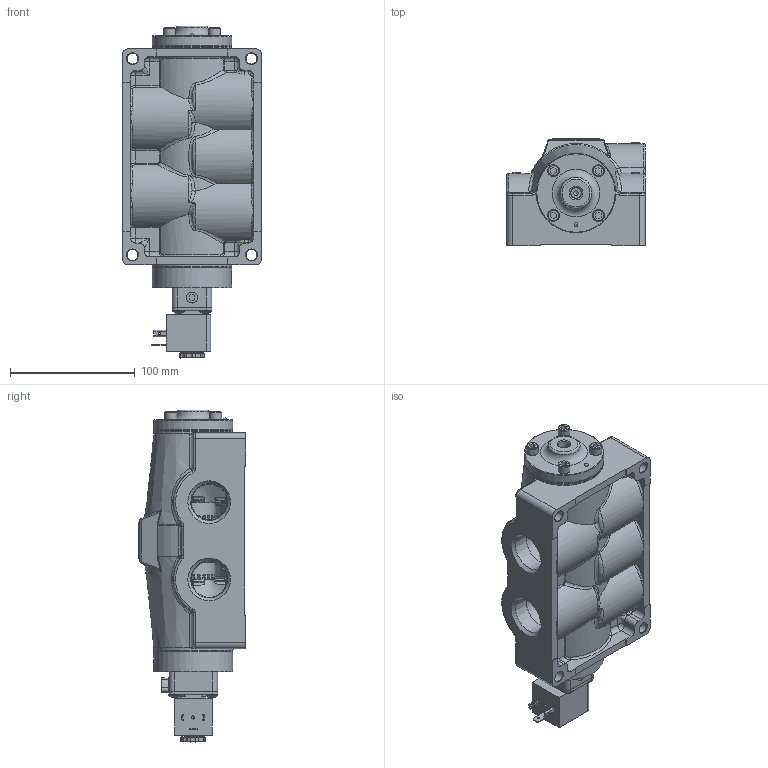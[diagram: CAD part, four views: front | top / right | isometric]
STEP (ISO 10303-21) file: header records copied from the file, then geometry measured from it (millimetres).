
FILE_DESCRIPTION(/* description */ (''),/* implementation_level */ '2;1');
FILE_NAME(/* name */ 'ESR8HOZ.stp',/* time_stamp */ '2026-09-20T16:15:08-04:00',/* author */ ('rmckenna'),/* organization */ (''),/* preprocessor_version */ 'ST-DEVELOPER v20.2',/* originating_system */ 'Autodesk Inventor 2027',/* authorisation */ '');
FILE_SCHEMA (('AUTOMOTIVE_DESIGN { 1 0 10303 214 3 1 1 }'));
Products named in the file (1): Part71
Bounding box: 111.12 x 86.28 x 265.82 mm (x, y, z)
Volume: 1033686.6 mm3; surface area: 206745 mm2
Topology: 1 solids, 41 shells, 2560 faces, 6133 edges, 3758 vertices
Faces by surface type: plane 909, cylinder 679, cone 338, bspline 335, torus 210, sphere 89
Full cylindrical faces by diameter (mm): 1.3 x1, 1.397 x1, 1.5 x2, 1.651 x2, 2.032 x8, 2.07 x2, 2.261 x2, 2.35 x4, 2.388 x1, 2.5 x2, 2.778 x2, 2.8 x1, 3 x4, 3.048 x3, 3.175 x2, 3.4 x1, 3.683 x5, 3.962 x4, 3.988 x1, 4.191 x2, 4.305 x1, 4.826 x4, 4.978 x8, 5.15 x4, 5.156 x4, 5.5 x1, 5.556 x1, 6.35 x8, 6.65 x1, 6.747 x4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
Entity records: 100160 total; most frequent: CARTESIAN_POINT 39999, ORIENTED_EDGE 12110, DIRECTION 11586, EDGE_CURVE 6055, AXIS2_PLACEMENT_3D 4535, VERTEX_POINT 3758, EDGE_LOOP 2823, STYLED_ITEM 2561
